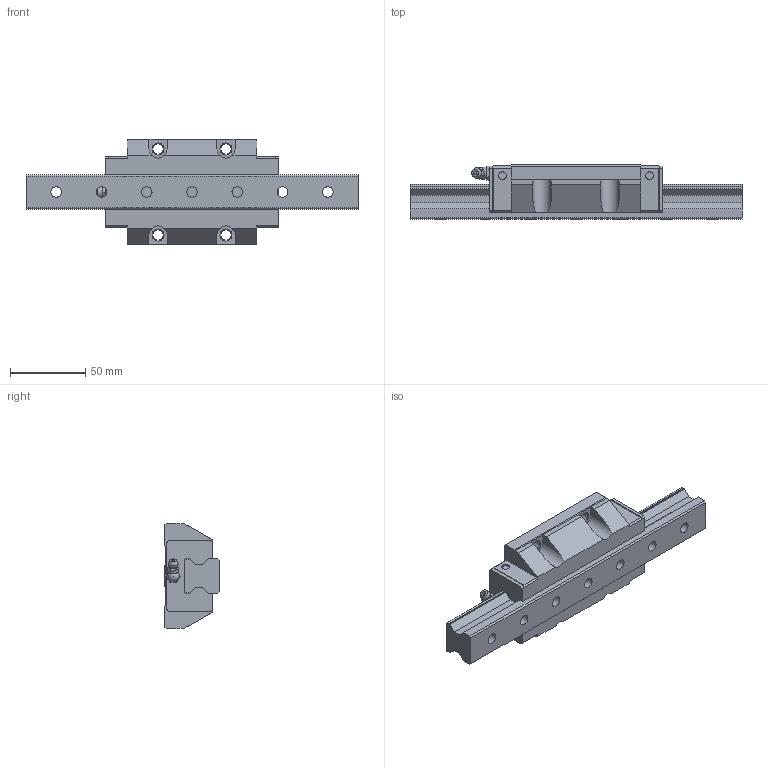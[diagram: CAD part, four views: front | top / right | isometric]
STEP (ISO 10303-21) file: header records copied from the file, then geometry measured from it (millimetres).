
FILE_DESCRIPTION(/* description */ ('STEP AP203'),/* implementation_level */ '2;1');
FILE_NAME(/* name */ 'SRG25XLC1SS-220LP_G20_0_B-M6F_52-45_0_0_0_1',/* time_stamp */ '2024-05-23T09:36:50+02:00',/* author */ ('License CC BY-ND 4.0'),/* organization */ ('CADENAS'),/* preprocessor_version */ 'ST-DEVELOPER v19.3',/* originating_system */ 'PARTsolutions',/* authorisation */ ' ');
FILE_SCHEMA (('CONFIG_CONTROL_DESIGN'));
Length unit declared in the file: millimetre
Products named in the file (4): SRG25XLC1SS-220LP_G20_0_B-M6F_52-45_0_0_0_1; SRG25XLC22020 Track; SRG25XLCSSB-M6F1 Slide25-65; SRG-B-M6F_grease_nipple_joint
Assembly tree (3 placements, depth 2):
  SRG25XLC1SS-220LP_G20_0_B-M6F_52-45_0_0_0_1
    SRG25XLC22020 Track
    SRG25XLCSSB-M6F1 Slide25-65
    SRG-B-M6F_grease_nipple_joint
Bounding box: 220 x 36 x 70 mm (x, y, z)
Volume: 252765.5 mm3; surface area: 57914.5 mm2
Topology: 3 solids, 3 shells, 235 faces, 596 edges, 383 vertices
Faces by surface type: plane 167, cylinder 38, cone 25, sphere 3, torus 2
Full cylindrical faces by diameter (mm): 4.917 x2, 5.2 x4, 6 x1, 6.8 x6, 7 x7, 8 x1, 10.2 x2, 11 x7
Entity records: 6775 total; most frequent: CARTESIAN_POINT 1234, DIRECTION 1098, ORIENTED_EDGE 1052, EDGE_CURVE 526, LINE 384, VECTOR 384, VERTEX_POINT 369, AXIS2_PLACEMENT_3D 357
